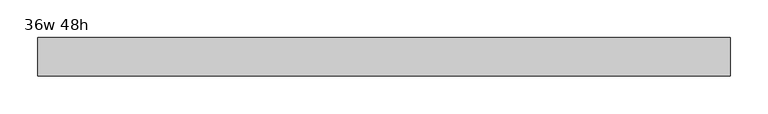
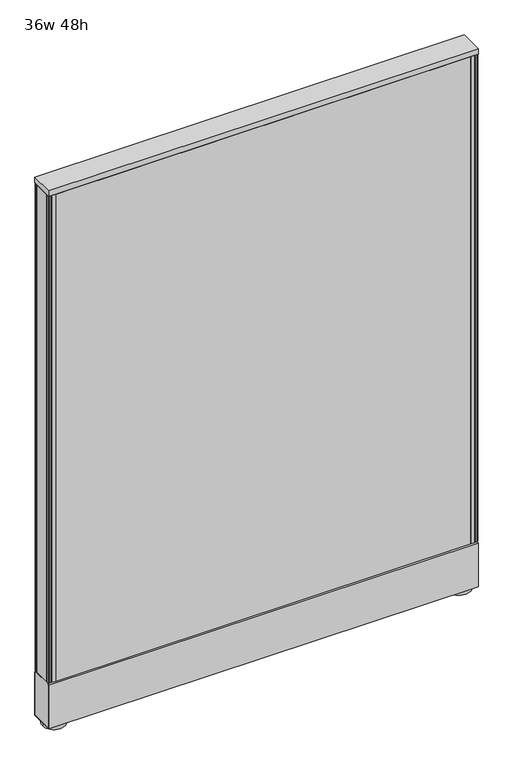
"""IFC4 building model written with IfcOpenShell, lengths in millimetres: furniture geometry, Haworth_UniGroupToo_Panel_Solid : 36w 48h."""

from ifc_helpers import new_model, si_unit, point, frame, frame_2d, origin, origin_with_axes, place, context, project, spatial, polyline, circle_curve, trimmed, segment, composite_curve, outline, extrude, source, transform, mapped, element, save


def furniture_36w_48h_49c94051(model_context):
    return source(origin(), model_context, "Body", "SweptSolid", [
        extrude(outline(polyline([(-438.8847098, -25.4), (-438.8847098, -12.7), (443.7652902, -12.7), (443.7652902, -25.4), (-438.8847098, -25.4)])), frame((0.0, 0.0, 111.125), z_axis=(0.0, 0.0, 1.0), x_axis=(1.0, 0.0, 0.0)), (0.0, 0.0, 1.0), 1095.375),
        extrude(outline(polyline([(443.7652902, 25.4), (443.7652902, 12.7), (-438.8847098, 12.7), (-438.8847098, 25.4), (443.7652902, 25.4)])), frame((0.0, 0.0, 111.125), z_axis=(0.0, 0.0, 1.0), x_axis=(1.0, 0.0, 0.0)), (0.0, 0.0, 1.0), 1095.375),
        extrude(outline(polyline([(-454.7597098, 16.5777477), (-453.0959283, 16.5777477), (-453.0959283, 19.6514836), (-454.7597098, 19.6514836), (-454.7597098, 23.7362925), (-453.0960023, 25.4), (-449.9358151, 25.4), (-449.9358151, 16.3224762), (-446.7639389, 16.3224762), (-446.7639389, 25.4), (-438.8847098, 25.4), (-438.8847098, -25.4), (-446.7639389, -25.4), (-446.7639389, -16.3224762), (-449.9358151, -16.3224762), (-449.9358151, -25.4), (-453.0960023, -25.4), (-454.7597098, -23.7362925), (-454.7597098, -19.6514836), (-453.0959283, -19.6514836), (-453.0959283, -16.5777477), (-454.7597098, -16.5777477), (-454.7597098, 16.5777477)])), frame((0.0, 0.0, 111.125), z_axis=(0.0, 0.0, 1.0), x_axis=(1.0, 0.0, 0.0)), (0.0, 0.0, 1.0), 1095.375),
        extrude(outline(polyline([(459.6402902, 16.5777477), (459.6402902, -16.5777477), (457.9765086, -16.5777477), (457.9765086, -19.6514836), (459.6402902, -19.6514836), (459.6402902, -23.7362925), (457.9765827, -25.4), (454.8163954, -25.4), (454.8163954, -16.3224762), (451.6445192, -16.3224762), (451.6445192, -25.4), (443.7652902, -25.4), (443.7652902, 25.4), (451.6445192, 25.4), (451.6445192, 16.3224762), (454.8163954, 16.3224762), (454.8163954, 25.4), (457.9765827, 25.4), (459.6402902, 23.7362925), (459.6402902, 19.6514836), (457.9765086, 19.6514836), (457.9765086, 16.5777477), (459.6402902, 16.5777477)])), frame((0.0, 0.0, 111.125), z_axis=(0.0, 0.0, 1.0), x_axis=(1.0, 0.0, 0.0)), (0.0, 0.0, 1.0), 1095.375),
        extrude(outline(composite_curve([segment(trimmed(circle_curve(frame_2d((-429.3597098, 0.0)), 23.8125), [point((-453.1722098, 0.0))], [point((-405.5472098, 0.0))], False, "CARTESIAN"), True, "CONTINUOUS"), segment(trimmed(circle_curve(frame_2d((-429.3597098, 0.0)), 23.8125), [point((-405.5472098, 0.0))], [point((-453.1722098, 0.0))], False, "CARTESIAN"), True, "CONTINUOUS")], self_intersect=False)), origin_with_axes(), (0.0, 0.0, 1.0), 9.525),
        extrude(outline(composite_curve([segment(trimmed(circle_curve(frame_2d((434.2402902, 0.0)), 23.8125), [point((410.4277902, 0.0))], [point((458.0527902, 0.0))], False, "CARTESIAN"), True, "CONTINUOUS"), segment(trimmed(circle_curve(frame_2d((434.2402902, 0.0)), 23.8125), [point((458.0527902, 0.0))], [point((410.4277902, 0.0))], False, "CARTESIAN"), True, "CONTINUOUS")], self_intersect=False)), origin_with_axes(), (0.0, 0.0, 1.0), 9.525),
        extrude(outline(polyline([(23.9117188, 11.0132813), (-23.9117187, 11.0132813), (-23.9117187, 107.188), (-21.463, 109.6367188), (21.463, 109.6367188), (23.9117188, 107.188), (23.9117188, 11.0132813)])), frame((458.0527902, 0.0, 0.0), z_axis=(1.0, 0.0, 0.0), x_axis=(0.0, 1.0, 0.0)), (0.0, 0.0, 1.0), 1.5875),
        extrude(outline(polyline([(23.9117188, 11.0132813), (-23.9117187, 11.0132813), (-23.9117187, 107.188), (-21.463, 109.6367188), (21.463, 109.6367188), (23.9117188, 107.188), (23.9117188, 11.0132813)])), frame((-454.7597098, 0.0, 0.0), z_axis=(1.0, 0.0, 0.0), x_axis=(0.0, 1.0, 0.0)), (0.0, 0.0, 1.0), 1.5875),
        extrude(outline(polyline([(459.6402902, -25.4), (-454.7597098, -25.4), (-454.7597098, 25.4), (459.6402902, 25.4), (459.6402902, -25.4)])), frame((0.0, 0.0, 1206.5), z_axis=(0.0, 0.0, 1.0), x_axis=(1.0, 0.0, 0.0)), (0.0, 0.0, 1.0), 12.7),
        extrude(outline(polyline([(25.4, 107.188), (25.4, 9.525), (-25.4, 9.525), (-25.4, 107.188), (-21.463, 111.125), (-21.463, 109.6367188), (-23.9117188, 107.188), (-23.9117188, 11.0132813), (23.9117188, 11.0132813), (23.9117188, 107.188), (21.463, 109.6367188), (21.463, 111.125), (25.4, 107.188)])), frame((-454.7597098, 0.0, 0.0), z_axis=(1.0, 0.0, 0.0), x_axis=(0.0, 1.0, 0.0)), (0.0, 0.0, 1.0), 914.4),
    ])


if __name__ == "__main__":
    model = new_model("IFC4")
    model_context = context("Model", 3, world=origin())
    ifc_project = project(units=[si_unit("LENGTHUNIT", "METRE", prefix="MILLI")], contexts=[model_context])
    site = spatial("IfcSite", under=ifc_project)
    building = spatial("IfcBuilding", under=site)
    placement = place(None, origin())
    furniture_36w_48h_shape = furniture_36w_48h_49c94051(model_context)
    element("IfcFurniture", 1, ObjectType="Haworth_UniGroupToo_Panel_Solid : 36w 48h", at=placement, inside=building, context=model_context, shape_type="MappedRepresentation", body=[
        mapped(furniture_36w_48h_shape, transform((0.0, 0.0, 0.0), x_axis=(1.0, 0.0, 0.0), y_axis=(0.0, 1.0, 0.0), z_axis=(0.0, 0.0, 1.0))),
    ])
    save(model, "model.ifc")
